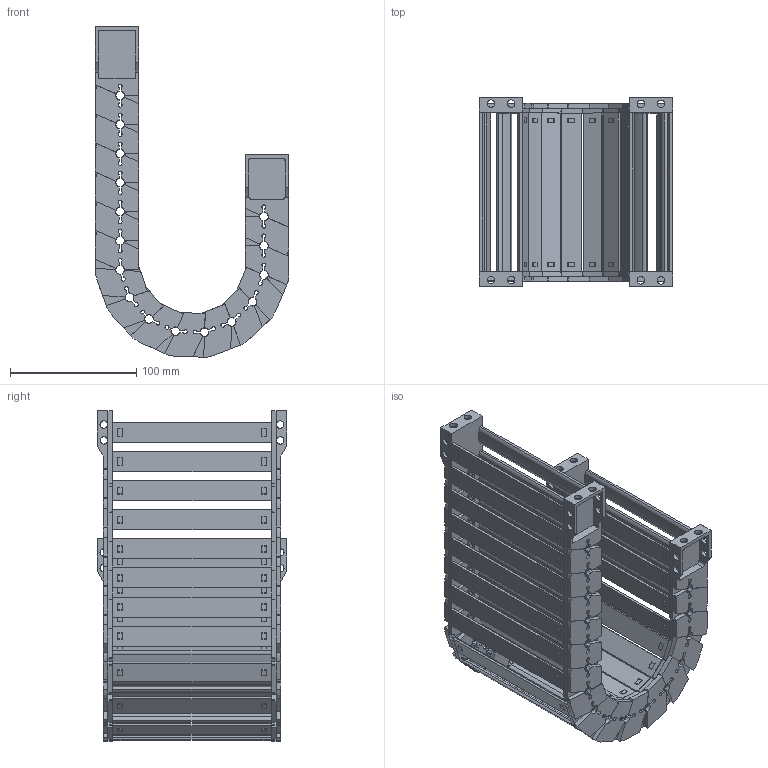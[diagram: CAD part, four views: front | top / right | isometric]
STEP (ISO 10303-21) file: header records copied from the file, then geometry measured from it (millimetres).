
FILE_DESCRIPTION(/* description */ (''),/* implementation_level */ '2;1');
FILE_NAME(/* name */ 'JY28-125-R55.stp',/* time_stamp */ '2026-06-03T18:32:36+08:00',/* author */ (''),/* organization */ (''),/* preprocessor_version */ 'ST-DEVELOPER v19.4',/* originating_system */ 'SIEMENS PLM Software NX2306.5001',/* authorisation */ '');
FILE_SCHEMA (('AP203_CONFIGURATION_CONTROLLED_3D_DESIGN_OF_MECHANICAL_PARTS_AND_ASSEMBLIES_MIM_LF { 1 0 10303 403 2 1 2}'));
Products named in the file (1): 简化图纸_objects
Bounding box: 153.11 x 149.5 x 261.45 mm (x, y, z)
Volume: 435692 mm3; surface area: 296846.7 mm2
Topology: 18 solids, 18 shells, 3920 faces, 10964 edges, 7130 vertices
Faces by surface type: plane 2177, cone 940, cylinder 741, bspline 60, torus 2
Full cylindrical faces by diameter (mm): 6 x24
Entity records: 135289 total; most frequent: CARTESIAN_POINT 33855, ORIENTED_EDGE 21836, DIRECTION 20876, EDGE_CURVE 10918, AXIS2_PLACEMENT_3D 7349, VERTEX_POINT 7108, LINE 6178, VECTOR 6178
